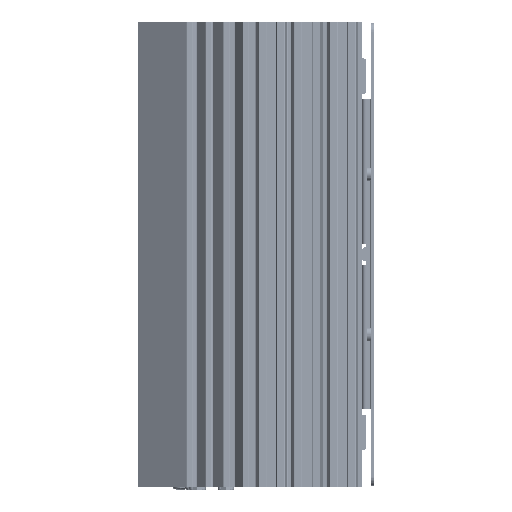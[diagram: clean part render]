
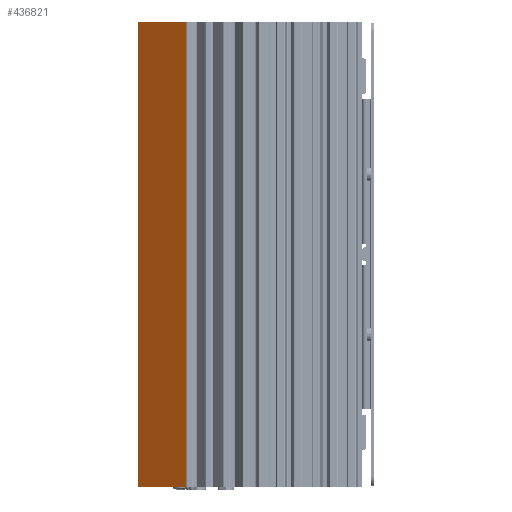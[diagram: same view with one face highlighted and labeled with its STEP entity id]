
A CAD part, left-side view. The second image highlights one B-rep face of the part: STEP entity #436821.
In plain terms, the highlighted planar face has unit normal (-0.819, 0.574, 0).
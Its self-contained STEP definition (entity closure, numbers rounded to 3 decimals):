
#24663 = CARTESIAN_POINT ( 'NONE',  ( -94.26, 19.8, 130.5 ) ) ;
#80558 = CARTESIAN_POINT ( 'NONE',  ( -113.398, -7.532, 130.5 ) ) ;
#98066 = LINE ( 'NONE', #448949, #393354 ) ;
#202964 = CARTESIAN_POINT ( 'NONE',  ( -94.42, 19.571, -130.5 ) ) ;
#250101 = DIRECTION ( 'NONE',  ( -0.574, -0.819, 0. ) ) ;
#256024 = CARTESIAN_POINT ( 'NONE',  ( -113.398, -7.532, 130.5 ) ) ;
#282172 = CARTESIAN_POINT ( 'NONE',  ( -94.42, 19.571, 130.5 ) ) ;
#294458 = PLANE ( 'NONE',  #548131 ) ;
#308122 = LINE ( 'NONE', #793097, #541997 ) ;
#339132 = VERTEX_POINT ( 'NONE', #341761 ) ;
#341761 = CARTESIAN_POINT ( 'NONE',  ( -94.42, 19.571, 130.5 ) ) ;
#347054 = DIRECTION ( 'NONE',  ( -0.574, -0.819, 0. ) ) ;
#393354 = VECTOR ( 'NONE', #250101, 1000. ) ;
#400763 = FACE_OUTER_BOUND ( 'NONE', #404498, .T. ) ;
#404498 = EDGE_LOOP ( 'NONE', ( #480895, #643645, #471173, #822294 ) ) ;
#424363 = VECTOR ( 'NONE', #736553, 1000. ) ;
#429648 = CARTESIAN_POINT ( 'NONE',  ( -113.398, -7.532, -130.5 ) ) ;
#436821 = ADVANCED_FACE ( 'NONE', ( #400763 ), #294458, .F. ) ;
#448949 = CARTESIAN_POINT ( 'NONE',  ( -94.26, 19.8, -130.5 ) ) ;
#456236 = EDGE_CURVE ( 'NONE', #339132, #748479, #708676, .T. ) ;
#471173 = ORIENTED_EDGE ( 'NONE', *, *, #603461, .F. ) ;
#480895 = ORIENTED_EDGE ( 'NONE', *, *, #800226, .T. ) ;
#541997 = VECTOR ( 'NONE', #347054, 1000. ) ;
#543254 = VERTEX_POINT ( 'NONE', #429648 ) ;
#543423 = EDGE_CURVE ( 'NONE', #543254, #689415, #793240, .T. ) ;
#548131 = AXIS2_PLACEMENT_3D ( 'NONE', #24663, #745996, #615290 ) ;
#603461 = EDGE_CURVE ( 'NONE', #339132, #689415, #308122, .T. ) ;
#615290 = DIRECTION ( 'NONE',  ( 0.574, 0.819, 0. ) ) ;
#643645 = ORIENTED_EDGE ( 'NONE', *, *, #543423, .T. ) ;
#671778 = VECTOR ( 'NONE', #710399, 1000. ) ;
#689415 = VERTEX_POINT ( 'NONE', #80558 ) ;
#708676 = LINE ( 'NONE', #282172, #424363 ) ;
#710399 = DIRECTION ( 'NONE',  ( 0., 0., 1. ) ) ;
#736553 = DIRECTION ( 'NONE',  ( 0., 0., -1. ) ) ;
#745996 = DIRECTION ( 'NONE',  ( 0.819, -0.574, 0. ) ) ;
#748479 = VERTEX_POINT ( 'NONE', #202964 ) ;
#793097 = CARTESIAN_POINT ( 'NONE',  ( -94.26, 19.8, 130.5 ) ) ;
#793240 = LINE ( 'NONE', #256024, #671778 ) ;
#800226 = EDGE_CURVE ( 'NONE', #748479, #543254, #98066, .T. ) ;
#822294 = ORIENTED_EDGE ( 'NONE', *, *, #456236, .T. ) ;
